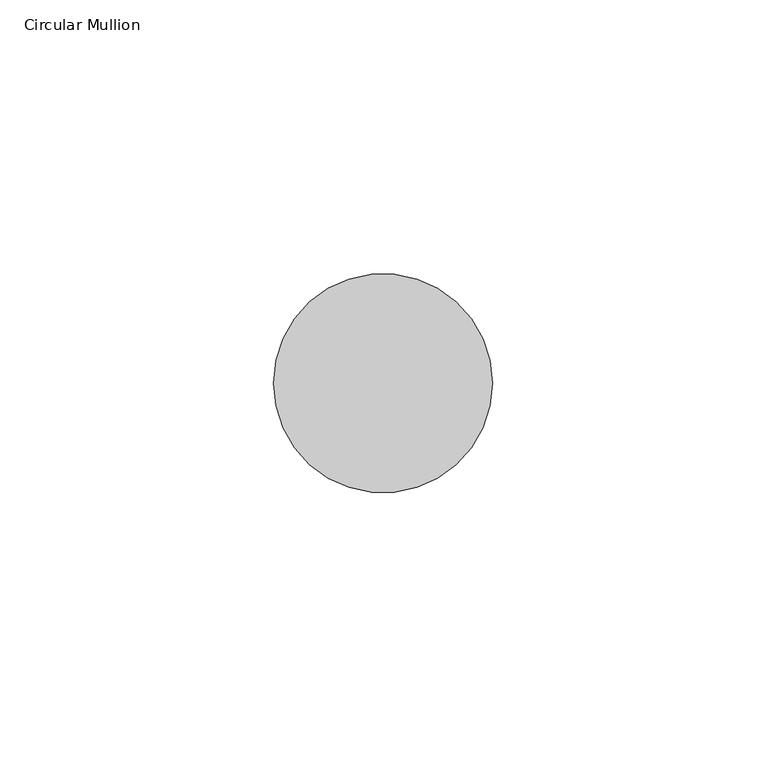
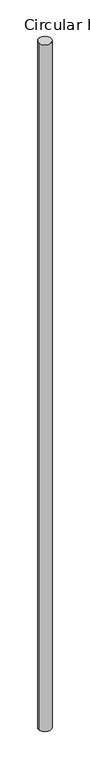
"""IFC4 building model written with IfcOpenShell, lengths in millimetres: member geometry, Circular Mullion : GRADIL 40mm."""

from ifc_helpers import new_model, si_unit, point, frame, origin, origin_2d, place, context, project, spatial, circle_curve, trimmed, segment, composite_curve, outline, extrude, source, transform, mapped, element, save


def circular_mullion_f07e19ea(model_context):
    return source(origin(), model_context, "Body", "SweptSolid", [
        extrude(outline(composite_curve([segment(trimmed(circle_curve(origin_2d(), 20.0), [point((20.0, 0.0))], [point((-20.0, 0.0))], False, "CARTESIAN"), True, "CONTINUOUS"), segment(trimmed(circle_curve(origin_2d(), 20.0), [point((-20.0, 0.0))], [point((20.0, 0.0))], False, "CARTESIAN"), True, "CONTINUOUS")], self_intersect=False)), frame((0.0, 0.0, -2283.3647489), z_axis=(0.0, 0.0, 1.0), x_axis=(1.0, 0.0, 0.0)), (0.0, 0.0, 1.0), 2283.3647489),
    ])


if __name__ == "__main__":
    model = new_model("IFC4")
    model_context = context("Model", 3, world=origin())
    ifc_project = project(units=[si_unit("LENGTHUNIT", "METRE", prefix="MILLI")], contexts=[model_context])
    site = spatial("IfcSite", under=ifc_project)
    building = spatial("IfcBuilding", under=site)
    placement = place(None, origin())
    circular_mullion_shape = circular_mullion_f07e19ea(model_context)
    element("IfcMember", 1, ObjectType="Circular Mullion : GRADIL 40mm", at=placement, inside=building, context=model_context, shape_type="MappedRepresentation", body=[
        mapped(circular_mullion_shape, transform((0.0, 0.0, 0.0), x_axis=(1.0, 0.0, 0.0), y_axis=(0.0, 1.0, 0.0), z_axis=(0.0, 0.0, 1.0))),
    ])
    save(model, "model.ifc")
